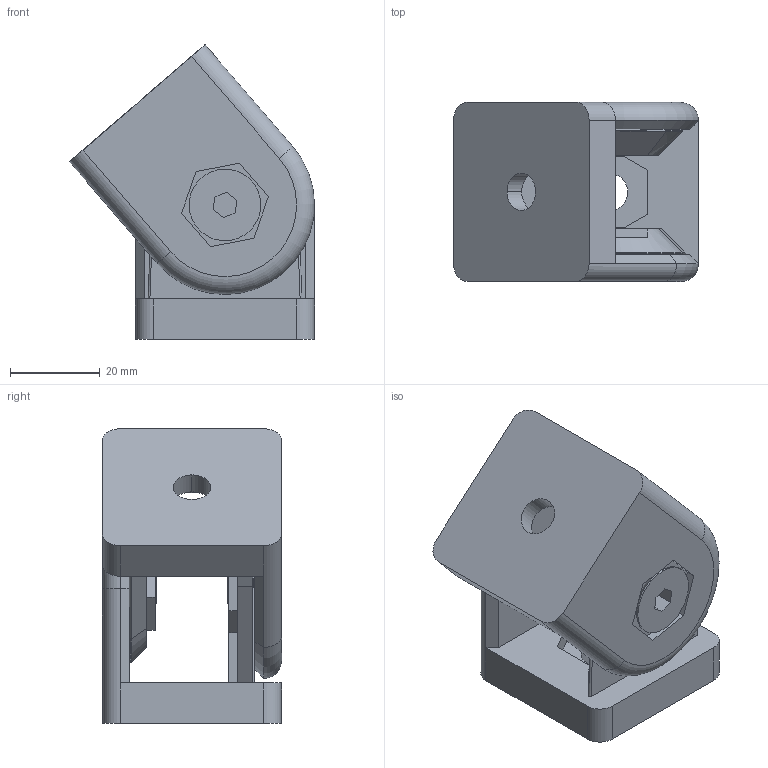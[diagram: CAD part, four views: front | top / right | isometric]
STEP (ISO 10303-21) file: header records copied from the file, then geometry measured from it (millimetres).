
FILE_DESCRIPTION (( 'STEP AP203' ), '1' );
FILE_NAME ('0108G4040.STEP', '2024-03-14T13:10:37', ( 'Windows-Benutzer' ), ( '' ), 'SwSTEP 2.0', 'SolidWorks 2023', '' );
FILE_SCHEMA (( 'CONFIG_CONTROL_DESIGN' ));
Length unit declared in the file: millimetre
Products named in the file (5): 2018_01_23__10-07-42-571(4); 2018_01_23__10-07-42-571(2); 2018_01_23__10-07-42-571(5); 2018_01_23__10-07-42-571(3); 0108G4040
Assembly tree (6 placements, depth 2):
  0108G4040
    2018_01_23__10-07-42-571(2)  x2
    2018_01_23__10-07-42-571(3)  x2
    2018_01_23__10-07-42-571(4)
    2018_01_23__10-07-42-571(5)
Bounding box: 54.74 x 40 x 65.78 mm (x, y, z)
Volume: 50893.8 mm3; surface area: 23205.1 mm2
Topology: 6 solids, 6 shells, 174 faces, 430 edges, 276 vertices
Faces by surface type: plane 108, cylinder 38, cone 24, torus 4
Entity records: 4907 total; most frequent: CARTESIAN_POINT 810, DIRECTION 734, ORIENTED_EDGE 724, EDGE_CURVE 362, LINE 258, VECTOR 258, AXIS2_PLACEMENT_3D 238, VERTEX_POINT 234
